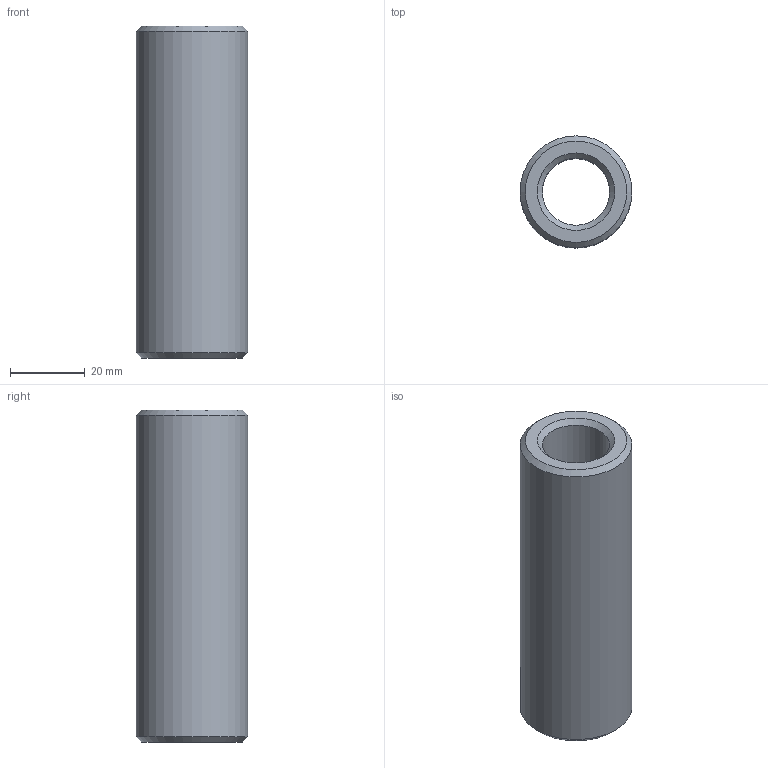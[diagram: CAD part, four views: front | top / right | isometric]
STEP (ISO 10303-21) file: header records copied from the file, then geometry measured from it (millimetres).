
FILE_DESCRIPTION(('Mechanical CAD reference from nasji.com'),'2;1');
FILE_NAME('NASJI.step','',(''),(''),'','NASJI distribution','');
FILE_SCHEMA(('AUTOMOTIVE_DESIGN { 1 0 10303 214 1 1 1 1 }'));
Length unit declared in the file: millimetre
Products named in the file (1): Open CASCADE STEP translator 7.8 221
Bounding box: 30 x 30 x 89.1 mm (x, y, z)
Volume: 40012.3 mm3; surface area: 14093.4 mm2
Topology: 1 solids, 1 shells, 8 faces, 14 edges, 8 vertices
Faces by surface type: cone 4, plane 2, cylinder 2
Full cylindrical faces by diameter (mm): 18 x1, 30 x1
Entity records: 382 total; most frequent: CARTESIAN_POINT 67, DIRECTION 60, ORIENTED_EDGE 28, PCURVE 28, DEFINITIONAL_REPRESENTATION 28, LINE 22, VECTOR 22, AXIS2_PLACEMENT_3D 17
